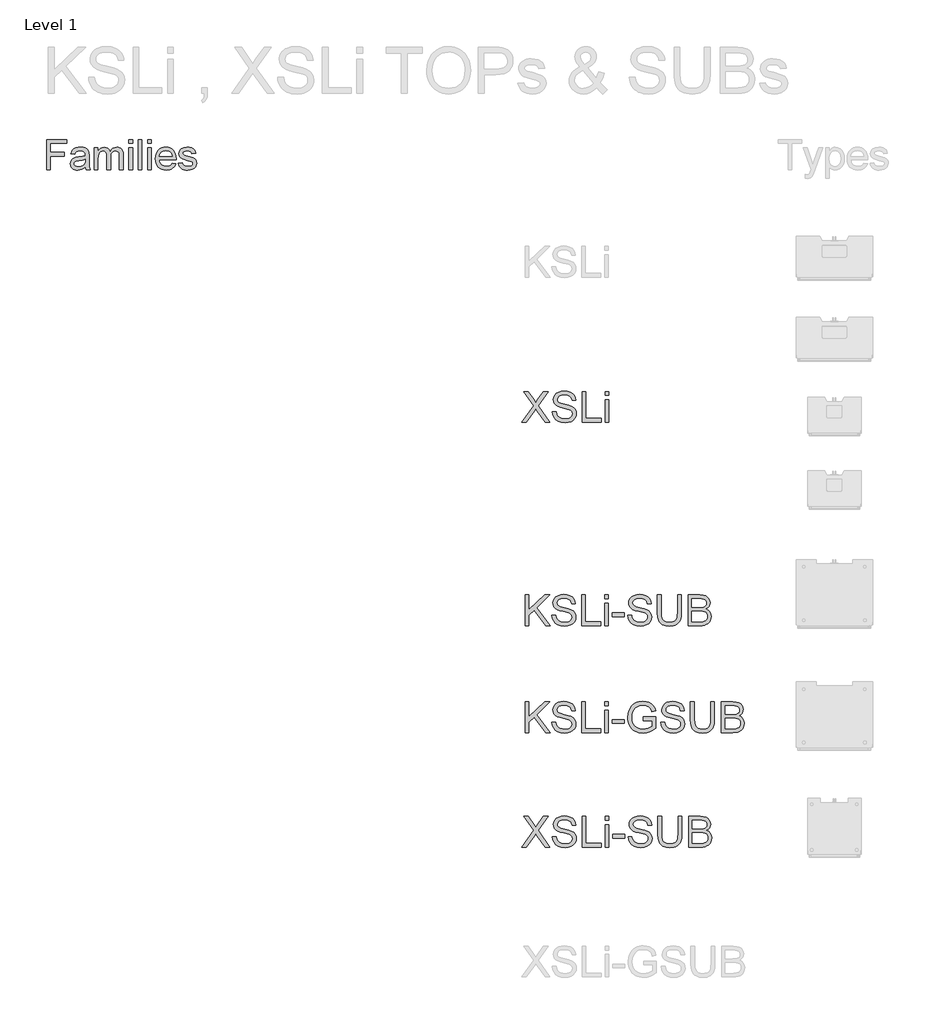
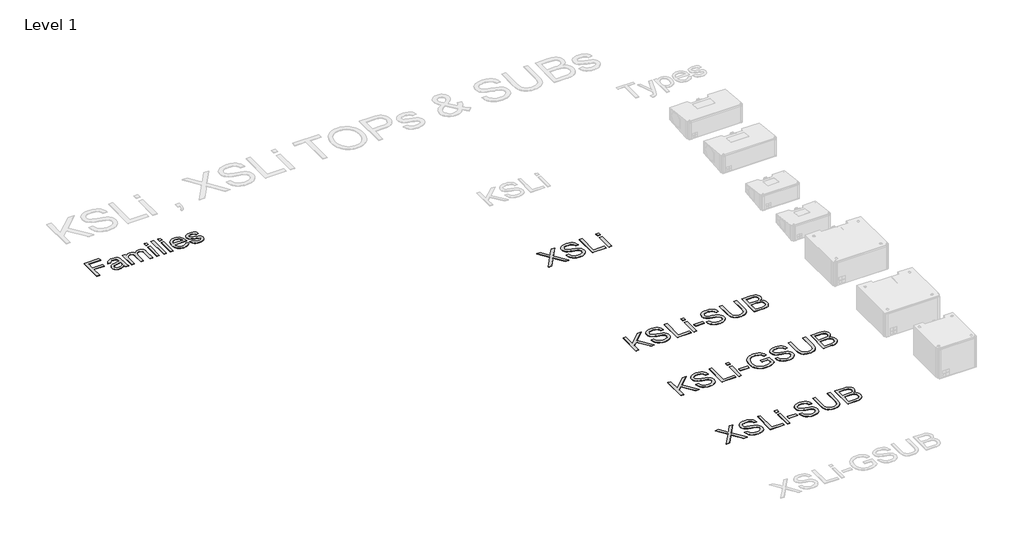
# One storey, part 50 of 52: 5 proxies.
"""IFC4 building model written with IfcOpenShell, lengths in millimetres."""

from ifc_helpers import new_model, si_unit, origin, origin_with_axes, place, context, project, spatial, polyline, outline, extrude, element, save

model = new_model("IFC4")

# Units and contexts
model_context = context("Model", 3, world=origin())
ifc_project = project(units=[si_unit("LENGTHUNIT", "METRE", prefix="MILLI")], contexts=[model_context])

# Site, building, storey
site = spatial("IfcSite", under=ifc_project)
building = spatial("IfcBuilding", under=site)
storey = spatial("IfcBuildingStorey", under=building, Name="Level 1", Elevation=0.0)

# Proxies
placement = place(None, origin())
element("IfcBuildingElementProxy", 1, Name="400mm Arial", ObjectType="400mm Arial", at=placement, inside=storey, context=model_context, shape_type="SweptSolid", body=[
    extrude(outline(polyline([(5943.279109, 17351.3054836), (5943.279109, 17743.0630593), (6206.4912302, 17743.0630593), (6206.4912302, 17694.0933624), (5992.2488059, 17694.0933624), (5992.2488059, 17577.7903321), (6175.8851696, 17577.7903321), (6175.8851696, 17528.8206351), (5992.2488059, 17528.8206351), (5992.2488059, 17351.3054836), (5943.279109, 17351.3054836)])), origin_with_axes(), (0.0, 0.0, 1.0), 5.0),
    extrude(outline(polyline([(6451.339715, 17388.0327563), (6427.9428164, 17367.97144), (6403.8524991, 17354.8443093), (6378.5188107, 17347.5992809), (6351.3917984, 17345.1842715), (6329.5879691, 17346.6368638), (6310.4681478, 17350.9946408), (6294.0323346, 17358.2576024), (6280.2805294, 17368.4257487), (6269.4219534, 17380.8534831), (6261.6658277, 17394.895209), (6257.0121523, 17410.5509263), (6255.4609271, 17427.8206351), (6257.8042037, 17448.1210612), (6264.8340332, 17466.5564305), (6275.6776648, 17482.3376805), (6289.4623476, 17494.6757487), (6323.7506999, 17510.7439305), (6366.120965, 17518.1085139), (6416.1905673, 17525.855673), (6451.0527832, 17534.9418472), (6451.339715, 17545.8452563), (6447.9682662, 17567.6998965), (6437.8539196, 17581.9986654), (6415.2341279, 17592.6151427), (6383.7194499, 17596.1539684), (6354.5480484, 17593.7987364), (6334.1758893, 17586.7330404), (6320.2836071, 17573.6656872), (6310.5518362, 17553.3054836), (6261.5821393, 17559.4266957), (6270.0824944, 17586.2069987), (6282.7672718, 17607.2486654), (6300.8200654, 17623.3407582), (6325.4244688, 17635.2723396), (6355.5164432, 17642.660834), (6390.0319499, 17645.1236654), (6423.1367084, 17642.9477658), (6449.3790143, 17636.4200669), (6469.1653542, 17626.6046076), (6482.902215, 17614.5654268), (6492.0123003, 17599.6808387), (6497.9183135, 17581.3291578), (6500.309412, 17538.480673), (6500.309412, 17477.5554836), (6502.7961544, 17392.4801995), (6512.5518362, 17351.3054836), (6463.5821393, 17351.3054836), (6455.7393362, 17368.3301048), (6451.339715, 17388.0327563)]), holes=[polyline([(6451.339715, 17485.9721502), (6418.4381999, 17477.8185044), (6372.3378211, 17470.9560518), (6330.2066658, 17463.0176048), (6319.2434792, 17457.5898112), (6311.1256999, 17450.105673), (6306.1043931, 17441.1390536), (6304.4306241, 17431.2638169), (6308.0770493, 17416.7020271), (6319.0163249, 17404.7704457), (6337.009341, 17396.8080877), (6361.8169878, 17394.1539684), (6388.1190711, 17397.0830641), (6411.3605484, 17405.870351), (6430.2024044, 17418.8181493), (6443.3056241, 17434.228779), (6449.1159934, 17450.105673), (6451.0527832, 17472.103779), (6451.339715, 17485.9721502)])]), origin_with_axes(), (0.0, 0.0, 1.0), 5.0),
    extrude(outline(polyline([(6567.6427453, 17351.3054836), (6567.6427453, 17639.0024533), (6616.6124423, 17639.0024533), (6616.6124423, 17591.6587033), (6631.341609, 17613.405744), (6650.279109, 17630.4423207), (6672.7793457, 17641.4533292), (6698.1967226, 17645.1236654), (6725.4313343, 17641.3815963), (6747.2620635, 17630.1553889), (6763.5693552, 17612.1862838), (6774.2336544, 17588.2155215), (6792.0832046, 17613.1128344), (6812.4434082, 17630.8966294), (6835.3142652, 17641.5669064), (6860.6957756, 17645.1236654), (6880.2997943, 17643.6441732), (6897.5067368, 17639.2056966), (6912.316603, 17631.8082357), (6924.7293931, 17621.4517904), (6934.5418635, 17608.0168058), (6941.5507709, 17591.3837269), (6945.7561154, 17571.5525539), (6947.1578968, 17548.5232866), (6947.1578968, 17351.3054836), (6898.1881999, 17351.3054836), (6898.1881999, 17527.4816199), (6893.6451128, 17568.369404), (6887.2608798, 17579.6434334), (6877.1943552, 17588.5024533), (6864.2465569, 17594.2410896), (6849.2185029, 17596.1539684), (6822.6892652, 17591.2522165), (6801.0617794, 17576.5469608), (6792.6720126, 17565.2669537), (6786.679322, 17551.03394), (6781.8851696, 17513.7088927), (6781.8851696, 17351.3054836), (6732.9154726, 17351.3054836), (6732.9154726, 17532.9333245), (6730.0820209, 17560.6222449), (6721.5816658, 17580.3727184), (6706.6253448, 17592.2086559), (6684.4239953, 17596.1539684), (6665.5582283, 17593.5237601), (6648.1749423, 17585.6331351), (6633.8283514, 17572.6733813), (6624.0726696, 17554.8357866), (6618.4774991, 17530.0879173), (6616.6124423, 17496.3973396), (6616.6124423, 17351.3054836), (6567.6427453, 17351.3054836)])), origin_with_axes(), (0.0, 0.0, 1.0), 5.0),
    extrude(outline(polyline([(7020.6124423, 17351.3054836), (7020.6124423, 17639.0024533), (7069.5821393, 17639.0024533), (7069.5821393, 17351.3054836), (7020.6124423, 17351.3054836)])), origin_with_axes(), (0.0, 0.0, 1.0), 5.0),
    extrude(outline(polyline([(7020.6124423, 17694.0933624), (7020.6124423, 17743.0630593), (7069.5821393, 17743.0630593), (7069.5821393, 17694.0933624), (7020.6124423, 17694.0933624)])), origin_with_axes(), (0.0, 0.0, 1.0), 5.0),
    extrude(outline(polyline([(7143.0366847, 17351.3054836), (7143.0366847, 17743.0630593), (7192.0063817, 17743.0630593), (7192.0063817, 17351.3054836), (7143.0366847, 17351.3054836)])), origin_with_axes(), (0.0, 0.0, 1.0), 5.0),
    extrude(outline(polyline([(7265.4609271, 17351.3054836), (7265.4609271, 17639.0024533), (7314.4306241, 17639.0024533), (7314.4306241, 17351.3054836), (7265.4609271, 17351.3054836)])), origin_with_axes(), (0.0, 0.0, 1.0), 5.0),
    extrude(outline(polyline([(7265.4609271, 17694.0933624), (7265.4609271, 17743.0630593), (7314.4306241, 17743.0630593), (7314.4306241, 17694.0933624), (7265.4609271, 17694.0933624)])), origin_with_axes(), (0.0, 0.0, 1.0), 5.0),
    extrude(outline(polyline([(7589.3113059, 17437.0024533), (7637.3245635, 17430.8812411), (7629.9629691, 17411.6508316), (7620.024966, 17394.7039211), (7607.5105543, 17380.0405096), (7592.419734, 17367.6605972), (7574.9079264, 17357.8272047), (7555.1305531, 17350.8033529), (7508.779109, 17345.1842715), (7478.394225, 17347.6082475), (7451.3210124, 17354.8801758), (7427.5594712, 17367.0000563), (7407.1096014, 17383.9678889), (7390.6648216, 17405.3114317), (7378.9185503, 17430.5584429), (7371.8707875, 17459.7089223), (7369.5215332, 17492.7628699), (7371.8946985, 17526.937645), (7379.0141942, 17557.0595082), (7390.8800204, 17583.1284594), (7407.4921771, 17605.1444987), (7427.8882472, 17622.6353841), (7451.1058135, 17635.1288737), (7477.144876, 17642.6249675), (7506.0054347, 17645.1236654), (7533.9364539, 17642.6309452), (7559.1954205, 17635.1527847), (7581.7823346, 17622.6891839), (7601.6971961, 17605.2401427), (7617.9536769, 17583.2719253), (7629.5654489, 17557.2507961), (7636.5325121, 17527.1767549), (7638.8548665, 17493.0498018), (7638.5679347, 17479.8509381), (7418.4912302, 17479.8509381), (7421.3276708, 17460.3096858), (7426.9676743, 17443.1953983), (7435.4112408, 17428.5080759), (7446.6583703, 17416.2477184), (7475.0765758, 17399.6774059), (7509.7355484, 17394.1539684), (7535.7985218, 17396.7124438), (7557.7488059, 17404.3878699), (7575.5864006, 17417.6584665), (7589.3113059, 17437.0024533)]), holes=[polyline([(7418.4912302, 17528.8206351), (7589.8851696, 17528.8206351), (7583.2618268, 17554.6923207), (7570.278162, 17573.199423), (7556.923877, 17583.2420366), (7541.7284461, 17590.4153321), (7505.8141468, 17596.1539684), (7472.8050323, 17591.5750148), (7445.5106431, 17577.838154), (7426.5372766, 17556.4258671), (7418.4912302, 17528.8206351)])]), origin_with_axes(), (0.0, 0.0, 1.0), 5.0),
    extrude(outline(polyline([(7669.4609271, 17437.0024533), (7718.4306241, 17443.1236654), (7726.1538722, 17422.1776427), (7741.0982378, 17406.7789684), (7763.3593646, 17397.3102184), (7793.0328968, 17394.1539684), (7822.3477643, 17397.0471976), (7842.9590332, 17405.7268851), (7855.1536355, 17418.3040631), (7859.2185029, 17432.8897639), (7855.1297245, 17445.371298), (7842.8633893, 17454.8878699), (7792.4590332, 17468.8518851), (7718.7175559, 17492.8106919), (7700.0550323, 17504.8498728), (7686.5333703, 17520.7865442), (7678.319947, 17539.6044893), (7675.5821393, 17560.2874911), (7677.7819499, 17579.2608576), (7684.3813817, 17596.775654), (7694.7826601, 17612.1384618), (7708.3880105, 17624.6558624), (7739.5201128, 17639.1459192), (7781.6512681, 17645.1236654), (7813.5246109, 17642.7206114), (7841.2374423, 17635.5114495), (7863.5224802, 17624.2015536), (7879.1124423, 17609.496298), (7889.4419878, 17590.3077326), (7895.9457756, 17565.5479078), (7846.9760787, 17559.4266957), (7840.7950891, 17574.8373254), (7828.5646203, 17586.4461086), (7810.1651175, 17593.7270035), (7785.4770256, 17596.1539684), (7757.3577075, 17593.8346029), (7738.6114953, 17586.8765063), (7728.066751, 17576.8338927), (7724.5518362, 17565.260976), (7730.3861165, 17551.010029), (7748.654109, 17540.2022639), (7790.8330862, 17529.7770745), (7862.7095067, 17506.7268851), (7881.6948287, 17495.7039211), (7896.0892415, 17480.6160896), (7905.1634603, 17461.4155688), (7908.1881999, 17438.0545366), (7904.6374186, 17413.9044419), (7893.9850749, 17391.1890063), (7876.6376554, 17371.6895982), (7853.0016468, 17357.1875858), (7824.4519309, 17348.1851), (7792.3633893, 17345.1842715), (7766.0075062, 17346.630886), (7742.9872056, 17350.9707298), (7723.3024873, 17358.2038027), (7706.9533514, 17368.3301048), (7693.5990664, 17381.3018141), (7682.8989006, 17397.0711086), (7674.8528542, 17415.6379883), (7669.4609271, 17437.0024533)])), origin_with_axes(), (0.0, 0.0, 1.0), 5.0),
])
element("IfcBuildingElementProxy", 2, Name="400mm Arial", ObjectType="400mm Arial", at=placement, inside=storey, context=model_context, shape_type="SweptSolid", body=[
    extrude(outline(polyline([(12164.5195082, 14043.8997901), (12319.4223537, 14262.8631536), (12189.6335858, 14445.7250307), (12249.8681311, 14445.7250307), (12322.9540208, 14342.8161739), (12347.577589, 14302.692511), (12376.4195374, 14343.502887), (12448.7206122, 14445.7250307), (12509.8380744, 14445.7250307), (12380.0493065, 14262.2745424), (12534.9521519, 14043.8997901), (12474.7176066, 14043.8997901), (12371.5144442, 14189.4829583), (12350.0301357, 14219.6983329), (12326.3875861, 14186.5399024), (12225.6369704, 14043.8997901), (12164.5195082, 14043.8997901)])), origin_with_axes(), (0.0, 0.0, 1.0), 5.0),
    extrude(outline(polyline([(12566.3447488, 14182.0272165), (12616.5729039, 14182.0272165), (12622.3363885, 14154.154024), (12632.7597117, 14131.7500105), (12649.0200959, 14113.9690474), (12672.2947634, 14099.9650062), (12700.7443044, 14090.8783209), (12732.5293088, 14087.8494258), (12760.5128659, 14090.1425569), (12785.0138068, 14097.0219502), (12804.8671718, 14107.9112573), (12818.9080012, 14122.2341296), (12827.2589225, 14138.6784548), (12830.042563, 14155.9321204), (12827.9578983, 14172.7443275), (12821.7039044, 14187.2756663), (12808.9997128, 14199.6732896), (12787.5644553, 14210.08435), (12714.4295146, 14229.2632647), (12666.4209142, 14241.9551936), (12635.7027676, 14254.0339857), (12610.6990547, 14270.932032), (12592.9794053, 14291.4107964), (12582.421192, 14315.0288205), (12578.9017876, 14341.3446459), (12583.2550579, 14370.7629428), (12596.3148687, 14398.1946769), (12617.7378635, 14421.444819), (12647.1806859, 14438.3183399), (12682.5218829, 14448.5822475), (12721.6400017, 14452.0035501), (12764.0200076, 14448.422832), (12801.1025127, 14437.6806777), (12831.5631419, 14419.9978165), (12854.07752, 14395.5949775), (12868.3268159, 14365.9927396), (12873.9921987, 14332.7116818), (12823.7640436, 14332.7116818), (12814.5424682, 14362.6818016), (12806.1792842, 14374.5398646), (12795.3145026, 14384.313263), (12765.2708063, 14397.409862), (12723.602039, 14401.775395), (12680.9522531, 14397.4589129), (12664.6489493, 14392.0633103), (12651.6933717, 14384.5094667), (12634.7707999, 14365.4531793), (12629.1299427, 14342.8161739), (12633.1275937, 14323.5146319), (12645.1205467, 14307.9900117), (12673.4719858, 14294.1085977), (12727.1337062, 14279.9328782), (12782.5122092, 14266.4683972), (12816.0139962, 14254.7206988), (12844.6474782, 14236.4982773), (12864.6234705, 14214.0084247), (12876.3589062, 14187.4963955), (12880.270718, 14157.2074446), (12875.770295, 14126.2440433), (12862.2690257, 14097.1200521), (12840.3187334, 14072.0550255), (12810.4712408, 14053.2685182), (12774.5782208, 14041.5330826), (12734.4913461, 14037.6212707), (12685.2809979, 14041.8396509), (12644.7771902, 14054.4947916), (12612.5139392, 14075.6357435), (12588.0252611, 14105.3115578), (12572.3044371, 14141.4620952), (12566.3447488, 14182.0272165)])), origin_with_axes(), (0.0, 0.0, 1.0), 5.0),
    extrude(outline(polyline([(12955.6129507, 14043.8997901), (12955.6129507, 14445.7250307), (13005.8411057, 14445.7250307), (13005.8411057, 14094.1279452), (13206.753726, 14094.1279452), (13206.753726, 14043.8997901), (12955.6129507, 14043.8997901)])), origin_with_axes(), (0.0, 0.0, 1.0), 5.0),
    extrude(outline(polyline([(13256.9818811, 14043.8997901), (13256.9818811, 14338.9902012), (13307.2100362, 14338.9902012), (13307.2100362, 14043.8997901), (13256.9818811, 14043.8997901)])), origin_with_axes(), (0.0, 0.0, 1.0), 5.0),
    extrude(outline(polyline([(13256.9818811, 14395.4968756), (13256.9818811, 14445.7250307), (13307.2100362, 14445.7250307), (13307.2100362, 14395.4968756), (13256.9818811, 14395.4968756)])), origin_with_axes(), (0.0, 0.0, 1.0), 5.0),
])
element("IfcBuildingElementProxy", 3, Name="400mm Arial", ObjectType="400mm Arial", at=placement, inside=storey, context=model_context, shape_type="SweptSolid", body=[
    extrude(outline(polyline([(12208.4691439, 11381.029306), (12208.4691439, 11782.8545466), (12258.697299, 11782.8545466), (12258.697299, 11586.1603065), (12464.7112163, 11782.8545466), (12534.9521519, 11782.8545466), (12361.9985632, 11617.6510053), (12541.2306713, 11381.029306), (12479.8189036, 11381.029306), (12326.3875861, 11583.7077598), (12258.697299, 11519.1567324), (12258.697299, 11381.029306), (12208.4691439, 11381.029306)])), origin_with_axes(), (0.0, 0.0, 1.0), 5.0),
    extrude(outline(polyline([(12560.0662294, 11519.1567324), (12610.2943845, 11519.1567324), (12616.0578691, 11491.2835399), (12626.4811923, 11468.8795264), (12642.7415765, 11451.0985633), (12666.016244, 11437.094522), (12694.465785, 11428.0078368), (12726.2507894, 11424.9789417), (12754.2343465, 11427.2720728), (12778.7352874, 11434.1514661), (12798.5886524, 11445.0407731), (12812.6294819, 11459.3636455), (12820.9804032, 11475.8079707), (12823.7640436, 11493.0616362), (12821.6793789, 11509.8738434), (12815.425385, 11524.4051822), (12802.7211935, 11536.8028055), (12781.2859359, 11547.2138659), (12708.1509952, 11566.3927806), (12660.1423949, 11579.0847094), (12629.4242483, 11591.1635016), (12604.4205353, 11608.0615479), (12586.7008859, 11628.5403123), (12576.1426726, 11652.1583364), (12572.6232682, 11678.4741618), (12576.9765385, 11707.8924587), (12590.0363493, 11735.3241928), (12611.4593442, 11758.5743349), (12640.9021665, 11775.4478557), (12676.2433635, 11785.7117634), (12715.3614823, 11789.133066), (12757.7414882, 11785.5523479), (12794.8239933, 11774.8101936), (12825.2846225, 11757.1273324), (12847.7990006, 11732.7244934), (12862.0482965, 11703.1222555), (12867.7136793, 11669.8411976), (12817.4855242, 11669.8411976), (12808.2639489, 11699.8113175), (12799.9007648, 11711.6693805), (12789.0359832, 11721.4427788), (12758.992287, 11734.5393779), (12717.3235196, 11738.9049109), (12674.6737337, 11734.5884288), (12658.3704299, 11729.1928262), (12645.4148523, 11721.6389826), (12628.4922805, 11702.5826952), (12622.8514233, 11679.9456898), (12626.8490743, 11660.6441478), (12638.8420273, 11645.1195276), (12667.1934664, 11631.2381136), (12720.8551868, 11617.0623941), (12776.2336898, 11603.5979131), (12809.7354768, 11591.8502147), (12838.3689588, 11573.6277932), (12858.3449511, 11551.1379405), (12870.0803868, 11524.6259114), (12873.9921987, 11494.3369605), (12869.4917756, 11463.3735592), (12855.9905064, 11434.2495679), (12834.040214, 11409.1845413), (12804.1927214, 11390.3980341), (12768.2997014, 11378.6625985), (12728.2128267, 11374.7507866), (12679.0024785, 11378.9691668), (12638.4986708, 11391.6243074), (12606.2354198, 11412.7652594), (12581.7467417, 11442.4410737), (12566.0259178, 11478.5916111), (12560.0662294, 11519.1567324)])), origin_with_axes(), (0.0, 0.0, 1.0), 5.0),
    extrude(outline(polyline([(12949.3344313, 11381.029306), (12949.3344313, 11782.8545466), (12999.5625863, 11782.8545466), (12999.5625863, 11431.257461), (13200.4752066, 11431.257461), (13200.4752066, 11381.029306), (12949.3344313, 11381.029306)])), origin_with_axes(), (0.0, 0.0, 1.0), 5.0),
    extrude(outline(polyline([(13250.7033617, 11732.6263915), (13250.7033617, 11782.8545466), (13300.9315168, 11782.8545466), (13300.9315168, 11732.6263915), (13250.7033617, 11732.6263915)])), origin_with_axes(), (0.0, 0.0, 1.0), 5.0),
    extrude(outline(polyline([(13250.7033617, 11381.029306), (13250.7033617, 11676.119717), (13300.9315168, 11676.119717), (13300.9315168, 11381.029306), (13250.7033617, 11381.029306)])), origin_with_axes(), (0.0, 0.0, 1.0), 5.0),
    extrude(outline(polyline([(13351.1596719, 11500.3211743), (13351.1596719, 11550.5493293), (13508.1226565, 11550.5493293), (13508.1226565, 11500.3211743), (13351.1596719, 11500.3211743)])), origin_with_axes(), (0.0, 0.0, 1.0), 5.0),
    extrude(outline(polyline([(13552.0722922, 11519.1567324), (13602.3004472, 11519.1567324), (13608.0639318, 11491.2835399), (13618.487255, 11468.8795264), (13634.7476392, 11451.0985633), (13658.0223068, 11437.094522), (13686.4718477, 11428.0078368), (13718.2568521, 11424.9789417), (13746.2404092, 11427.2720728), (13770.7413501, 11434.1514661), (13790.5947151, 11445.0407731), (13804.6355446, 11459.3636455), (13812.9864659, 11475.8079707), (13815.7701063, 11493.0616362), (13813.6854417, 11509.8738434), (13807.4314478, 11524.4051822), (13794.7272562, 11536.8028055), (13773.2919986, 11547.2138659), (13700.157058, 11566.3927806), (13652.1484576, 11579.0847094), (13621.430311, 11591.1635016), (13596.4265981, 11608.0615479), (13578.7069486, 11628.5403123), (13568.1487354, 11652.1583364), (13564.6293309, 11678.4741618), (13568.9826012, 11707.8924587), (13582.042412, 11735.3241928), (13603.4654069, 11758.5743349), (13632.9082292, 11775.4478557), (13668.2494262, 11785.7117634), (13707.3675451, 11789.133066), (13749.7475509, 11785.5523479), (13786.830056, 11774.8101936), (13817.2906852, 11757.1273324), (13839.8050633, 11732.7244934), (13854.0543593, 11703.1222555), (13859.719742, 11669.8411976), (13809.4915869, 11669.8411976), (13800.2700116, 11699.8113175), (13791.9068276, 11711.6693805), (13781.042046, 11721.4427788), (13750.9983497, 11734.5393779), (13709.3295824, 11738.9049109), (13666.6797964, 11734.5884288), (13650.3764926, 11729.1928262), (13637.420915, 11721.6389826), (13620.4983433, 11702.5826952), (13614.857486, 11679.9456898), (13618.855137, 11660.6441478), (13630.8480901, 11645.1195276), (13659.1995292, 11631.2381136), (13712.8612495, 11617.0623941), (13768.2397525, 11603.5979131), (13801.7415396, 11591.8502147), (13830.3750215, 11573.6277932), (13850.3510139, 11551.1379405), (13862.0864495, 11524.6259114), (13865.9982614, 11494.3369605), (13861.4978383, 11463.3735592), (13847.9965691, 11434.2495679), (13826.0462767, 11409.1845413), (13796.1987842, 11390.3980341), (13760.3057642, 11378.6625985), (13720.2188894, 11374.7507866), (13671.0085412, 11378.9691668), (13630.5047335, 11391.6243074), (13598.2414826, 11412.7652594), (13573.7528044, 11442.4410737), (13558.0319805, 11478.5916111), (13552.0722922, 11519.1567324)])), origin_with_axes(), (0.0, 0.0, 1.0), 5.0),
    extrude(outline(polyline([(14205.0383081, 11782.8545466), (14255.2664632, 11782.8545466), (14255.2664632, 11551.0398387), (14251.8574234, 11496.7527189), (14241.6303039, 11454.9490615), (14233.4449295, 11437.9958329), (14222.5249656, 11422.6980733), (14192.4812694, 11397.068961), (14173.3391429, 11387.3047597), (14151.4256387, 11380.3303302), (14099.2844973, 11374.7507866), (14048.28379, 11379.6068289), (14007.5102022, 11394.1749559), (13990.9555124, 11404.9753582), (13976.9514711, 11417.9523956), (13965.4980783, 11433.1060681), (13956.5953341, 11450.4363757), (13945.154204, 11494.0058667), (13941.340494, 11551.0398387), (13941.340494, 11782.8545466), (13991.5686491, 11782.8545466), (13991.5686491, 11552.8056722), (13994.0457212, 11507.6665514), (14001.4769375, 11476.2371663), (14014.9414185, 11454.4708149), (14035.5182848, 11438.3207954), (14062.3491449, 11428.3144051), (14094.5756077, 11424.9789417), (14122.2587279, 11426.6282793), (14145.6621541, 11431.5762921), (14164.7858865, 11439.8229802), (14179.629925, 11451.3683434), (14190.7460926, 11467.6042022), (14198.6862124, 11489.9223765), (14203.4502842, 11518.3228666), (14205.0383081, 11552.8056722), (14205.0383081, 11782.8545466)])), origin_with_axes(), (0.0, 0.0, 1.0), 5.0),
    extrude(outline(polyline([(14343.1657346, 11381.029306), (14343.1657346, 11782.8545466), (14496.4989502, 11782.8545466), (14538.6704896, 11779.8992279), (14571.5959281, 11771.0332718), (14596.832633, 11756.0359491), (14615.9379713, 11734.6865307), (14627.9677125, 11709.5724531), (14631.9776263, 11683.2811532), (14628.6053747, 11659.0867807), (14618.4886198, 11636.3394106), (14601.5537853, 11616.4369947), (14577.7272947, 11600.7774844), (14606.1890984, 11585.9150518), (14627.2196858, 11563.3025718), (14640.2059202, 11534.436098), (14644.534665, 11500.8116836), (14641.5793463, 11472.7913383), (14632.7133903, 11446.8066067), (14619.4819012, 11424.7091615), (14603.4299834, 11408.3506755), (14583.7728222, 11396.5048752), (14559.7256024, 11387.9454875), (14530.5035093, 11382.7583513), (14495.3217278, 11381.029306), (14343.1657346, 11381.029306)]), holes=[polyline([(14393.3938897, 11431.257461), (14496.4008483, 11431.257461), (14533.6795572, 11433.2194984), (14565.2193069, 11444.1578563), (14576.795327, 11453.5878982), (14586.1150042, 11466.4760307), (14592.2586335, 11482.2459056), (14594.30651, 11500.3211743), (14591.9030143, 11521.3149735), (14584.6925272, 11539.3657167), (14572.0987002, 11553.4801226), (14553.5451849, 11562.6649097), (14527.2661477, 11567.7048931), (14491.495755, 11569.3848875), (14393.3938897, 11569.3848875), (14393.3938897, 11431.257461)]), polyline([(14393.3938897, 11619.6130426), (14485.1191338, 11619.6130426), (14538.6827523, 11623.9295247), (14557.4324713, 11631.3730037), (14570.9092151, 11642.5198281), (14579.0394072, 11657.1983197), (14581.7494712, 11675.2368002), (14579.2233482, 11692.7479832), (14571.6449791, 11708.0028233), (14559.3577204, 11719.9099372), (14542.7049288, 11727.3779417), (14517.1493928, 11731.314279), (14478.1539014, 11732.6263915), (14393.3938897, 11732.6263915), (14393.3938897, 11619.6130426)])]), origin_with_axes(), (0.0, 0.0, 1.0), 5.0),
])
element("IfcBuildingElementProxy", 4, Name="400mm Arial", ObjectType="400mm Arial", at=placement, inside=storey, context=model_context, shape_type="SweptSolid", body=[
    extrude(outline(polyline([(12164.5195082, 8481.029306), (12319.4223537, 8699.9926695), (12189.6335858, 8882.8545466), (12249.8681311, 8882.8545466), (12322.9540208, 8779.9456898), (12347.577589, 8739.8220268), (12376.4195374, 8780.6324028), (12448.7206122, 8882.8545466), (12509.8380744, 8882.8545466), (12380.0493065, 8699.4040583), (12534.9521519, 8481.029306), (12474.7176066, 8481.029306), (12371.5144442, 8626.6124742), (12350.0301357, 8656.8278487), (12326.3875861, 8623.6694182), (12225.6369704, 8481.029306), (12164.5195082, 8481.029306)])), origin_with_axes(), (0.0, 0.0, 1.0), 5.0),
    extrude(outline(polyline([(12566.3447488, 8619.1567324), (12616.5729039, 8619.1567324), (12622.3363885, 8591.2835399), (12632.7597117, 8568.8795264), (12649.0200959, 8551.0985633), (12672.2947634, 8537.094522), (12700.7443044, 8528.0078368), (12732.5293088, 8524.9789417), (12760.5128659, 8527.2720728), (12785.0138068, 8534.1514661), (12804.8671718, 8545.0407731), (12818.9080012, 8559.3636455), (12827.2589225, 8575.8079707), (12830.042563, 8593.0616362), (12827.9578983, 8609.8738434), (12821.7039044, 8624.4051822), (12808.9997128, 8636.8028055), (12787.5644553, 8647.2138659), (12714.4295146, 8666.3927806), (12666.4209142, 8679.0847094), (12635.7027676, 8691.1635016), (12610.6990547, 8708.0615479), (12592.9794053, 8728.5403123), (12582.421192, 8752.1583364), (12578.9017876, 8778.4741618), (12583.2550579, 8807.8924587), (12596.3148687, 8835.3241928), (12617.7378635, 8858.5743349), (12647.1806859, 8875.4478557), (12682.5218829, 8885.7117634), (12721.6400017, 8889.133066), (12764.0200076, 8885.5523479), (12801.1025127, 8874.8101936), (12831.5631419, 8857.1273324), (12854.07752, 8832.7244934), (12868.3268159, 8803.1222555), (12873.9921987, 8769.8411976), (12823.7640436, 8769.8411976), (12814.5424682, 8799.8113175), (12806.1792842, 8811.6693805), (12795.3145026, 8821.4427788), (12765.2708063, 8834.5393779), (12723.602039, 8838.9049109), (12680.9522531, 8834.5884288), (12664.6489493, 8829.1928262), (12651.6933717, 8821.6389826), (12634.7707999, 8802.5826952), (12629.1299427, 8779.9456898), (12633.1275937, 8760.6441478), (12645.1205467, 8745.1195276), (12673.4719858, 8731.2381136), (12727.1337062, 8717.0623941), (12782.5122092, 8703.5979131), (12816.0139962, 8691.8502147), (12844.6474782, 8673.6277932), (12864.6234705, 8651.1379405), (12876.3589062, 8624.6259114), (12880.270718, 8594.3369605), (12875.770295, 8563.3735592), (12862.2690257, 8534.2495679), (12840.3187334, 8509.1845413), (12810.4712408, 8490.3980341), (12774.5782208, 8478.6625985), (12734.4913461, 8474.7507866), (12685.2809979, 8478.9691668), (12644.7771902, 8491.6243074), (12612.5139392, 8512.7652594), (12588.0252611, 8542.4410737), (12572.3044371, 8578.5916111), (12566.3447488, 8619.1567324)])), origin_with_axes(), (0.0, 0.0, 1.0), 5.0),
    extrude(outline(polyline([(12955.6129507, 8481.029306), (12955.6129507, 8882.8545466), (13005.8411057, 8882.8545466), (13005.8411057, 8531.257461), (13206.753726, 8531.257461), (13206.753726, 8481.029306), (12955.6129507, 8481.029306)])), origin_with_axes(), (0.0, 0.0, 1.0), 5.0),
    extrude(outline(polyline([(13256.9818811, 8481.029306), (13256.9818811, 8776.119717), (13307.2100362, 8776.119717), (13307.2100362, 8481.029306), (13256.9818811, 8481.029306)])), origin_with_axes(), (0.0, 0.0, 1.0), 5.0),
    extrude(outline(polyline([(13256.9818811, 8832.6263915), (13256.9818811, 8882.8545466), (13307.2100362, 8882.8545466), (13307.2100362, 8832.6263915), (13256.9818811, 8832.6263915)])), origin_with_axes(), (0.0, 0.0, 1.0), 5.0),
    extrude(outline(polyline([(13357.4381913, 8600.3211743), (13357.4381913, 8650.5493293), (13514.4011759, 8650.5493293), (13514.4011759, 8600.3211743), (13357.4381913, 8600.3211743)])), origin_with_axes(), (0.0, 0.0, 1.0), 5.0),
    extrude(outline(polyline([(13558.3508115, 8619.1567324), (13608.5789666, 8619.1567324), (13614.3424512, 8591.2835399), (13624.7657744, 8568.8795264), (13641.0261586, 8551.0985633), (13664.3008262, 8537.094522), (13692.7503671, 8528.0078368), (13724.5353715, 8524.9789417), (13752.5189286, 8527.2720728), (13777.0198695, 8534.1514661), (13796.8732345, 8545.0407731), (13810.914064, 8559.3636455), (13819.2649853, 8575.8079707), (13822.0486257, 8593.0616362), (13819.9639611, 8609.8738434), (13813.7099671, 8624.4051822), (13801.0057756, 8636.8028055), (13779.570518, 8647.2138659), (13706.4355773, 8666.3927806), (13658.426977, 8679.0847094), (13627.7088304, 8691.1635016), (13602.7051174, 8708.0615479), (13584.985468, 8728.5403123), (13574.4272547, 8752.1583364), (13570.9078503, 8778.4741618), (13575.2611206, 8807.8924587), (13588.3209314, 8835.3241928), (13609.7439263, 8858.5743349), (13639.1867486, 8875.4478557), (13674.5279456, 8885.7117634), (13713.6460644, 8889.133066), (13756.0260703, 8885.5523479), (13793.1085754, 8874.8101936), (13823.5692046, 8857.1273324), (13846.0835827, 8832.7244934), (13860.3328787, 8803.1222555), (13865.9982614, 8769.8411976), (13815.7701063, 8769.8411976), (13806.548531, 8799.8113175), (13798.1853469, 8811.6693805), (13787.3205653, 8821.4427788), (13757.2768691, 8834.5393779), (13715.6081018, 8838.9049109), (13672.9583158, 8834.5884288), (13656.655012, 8829.1928262), (13643.6994344, 8821.6389826), (13626.7768627, 8802.5826952), (13621.1360054, 8779.9456898), (13625.1336564, 8760.6441478), (13637.1266095, 8745.1195276), (13665.4780485, 8731.2381136), (13719.1397689, 8717.0623941), (13774.5182719, 8703.5979131), (13808.0200589, 8691.8502147), (13836.6535409, 8673.6277932), (13856.6295332, 8651.1379405), (13868.3649689, 8624.6259114), (13872.2767808, 8594.3369605), (13867.7763577, 8563.3735592), (13854.2750885, 8534.2495679), (13832.3247961, 8509.1845413), (13802.4773035, 8490.3980341), (13766.5842836, 8478.6625985), (13726.4974088, 8474.7507866), (13677.2870606, 8478.9691668), (13636.7832529, 8491.6243074), (13604.5200019, 8512.7652594), (13580.0313238, 8542.4410737), (13564.3104999, 8578.5916111), (13558.3508115, 8619.1567324)])), origin_with_axes(), (0.0, 0.0, 1.0), 5.0),
    extrude(outline(polyline([(14211.3168275, 8882.8545466), (14261.5449826, 8882.8545466), (14261.5449826, 8651.0398387), (14258.1359428, 8596.7527189), (14247.9088233, 8554.9490615), (14239.7234489, 8537.9958329), (14228.803485, 8522.6980733), (14198.7597888, 8497.068961), (14179.6176623, 8487.3047597), (14157.7041581, 8480.3303302), (14105.5630166, 8474.7507866), (14054.5623094, 8479.6068289), (14013.7887216, 8494.1749559), (13997.2340318, 8504.9753582), (13983.2299905, 8517.9523956), (13971.7765977, 8533.1060681), (13962.8738534, 8550.4363757), (13951.4327234, 8594.0058667), (13947.6190134, 8651.0398387), (13947.6190134, 8882.8545466), (13997.8471685, 8882.8545466), (13997.8471685, 8652.8056722), (14000.3242406, 8607.6665514), (14007.7554569, 8576.2371663), (14021.2199379, 8554.4708149), (14041.7968041, 8538.3207954), (14068.6276643, 8528.3144051), (14100.8541271, 8524.9789417), (14128.5372472, 8526.6282793), (14151.9406735, 8531.5762921), (14171.0644059, 8539.8229802), (14185.9084444, 8551.3683434), (14197.024612, 8567.6042022), (14204.9647317, 8589.9223765), (14209.7288036, 8618.3228666), (14211.3168275, 8652.8056722), (14211.3168275, 8882.8545466)])), origin_with_axes(), (0.0, 0.0, 1.0), 5.0),
    extrude(outline(polyline([(14349.444254, 8481.029306), (14349.444254, 8882.8545466), (14502.7774696, 8882.8545466), (14544.9490089, 8879.8992279), (14577.8744475, 8871.0332718), (14603.1111524, 8856.0359491), (14622.2164907, 8834.6865307), (14634.2462319, 8809.5724531), (14638.2561457, 8783.2811532), (14634.883894, 8759.0867807), (14624.7671392, 8736.3394106), (14607.8323047, 8716.4369947), (14584.0058141, 8700.7774844), (14612.4676178, 8685.9150518), (14633.4982052, 8663.3025718), (14646.4844396, 8634.436098), (14650.8131844, 8600.8116836), (14647.8578657, 8572.7913383), (14638.9919096, 8546.8066067), (14625.7604206, 8524.7091615), (14609.7085028, 8508.3506755), (14590.0513416, 8496.5048752), (14566.0041218, 8487.9454875), (14536.7820287, 8482.7583513), (14501.6002472, 8481.029306), (14349.444254, 8481.029306)]), holes=[polyline([(14399.6724091, 8531.257461), (14502.6793677, 8531.257461), (14539.9580765, 8533.2194984), (14571.4978263, 8544.1578563), (14583.0738464, 8553.5878982), (14592.3935236, 8566.4760307), (14598.5371529, 8582.2459056), (14600.5850294, 8600.3211743), (14598.1815336, 8621.3149735), (14590.9710465, 8639.3657167), (14578.3772196, 8653.4801226), (14559.8237043, 8662.6649097), (14533.5446671, 8667.7048931), (14497.7742744, 8669.3848875), (14399.6724091, 8669.3848875), (14399.6724091, 8531.257461)]), polyline([(14399.6724091, 8719.6130426), (14491.3976532, 8719.6130426), (14544.9612717, 8723.9295247), (14563.7109907, 8731.3730037), (14577.1877345, 8742.5198281), (14585.3179266, 8757.1983197), (14588.0279906, 8775.2368002), (14585.5018675, 8792.7479832), (14577.9234984, 8808.0028233), (14565.6362398, 8819.9099372), (14548.9834482, 8827.3779417), (14523.4279122, 8831.314279), (14484.4324207, 8832.6263915), (14399.6724091, 8832.6263915), (14399.6724091, 8719.6130426)])]), origin_with_axes(), (0.0, 0.0, 1.0), 5.0),
])
element("IfcBuildingElementProxy", 5, Name="400mm Arial", ObjectType="400mm Arial", at=placement, inside=storey, context=model_context, shape_type="SweptSolid", body=[
    extrude(outline(polyline([(12208.4691439, 9981.029306), (12208.4691439, 10382.8545466), (12258.697299, 10382.8545466), (12258.697299, 10186.1603065), (12464.7112163, 10382.8545466), (12534.9521519, 10382.8545466), (12361.9985632, 10217.6510053), (12541.2306713, 9981.029306), (12479.8189036, 9981.029306), (12326.3875861, 10183.7077598), (12258.697299, 10119.1567324), (12258.697299, 9981.029306), (12208.4691439, 9981.029306)])), origin_with_axes(), (0.0, 0.0, 1.0), 5.0),
    extrude(outline(polyline([(12560.0662294, 10119.1567324), (12610.2943845, 10119.1567324), (12616.0578691, 10091.2835399), (12626.4811923, 10068.8795264), (12642.7415765, 10051.0985633), (12666.016244, 10037.094522), (12694.465785, 10028.0078368), (12726.2507894, 10024.9789417), (12754.2343465, 10027.2720728), (12778.7352874, 10034.1514661), (12798.5886524, 10045.0407731), (12812.6294819, 10059.3636455), (12820.9804032, 10075.8079707), (12823.7640436, 10093.0616362), (12821.6793789, 10109.8738434), (12815.425385, 10124.4051822), (12802.7211935, 10136.8028055), (12781.2859359, 10147.2138659), (12708.1509952, 10166.3927806), (12660.1423949, 10179.0847094), (12629.4242483, 10191.1635016), (12604.4205353, 10208.0615479), (12586.7008859, 10228.5403123), (12576.1426726, 10252.1583364), (12572.6232682, 10278.4741618), (12576.9765385, 10307.8924587), (12590.0363493, 10335.3241928), (12611.4593442, 10358.5743349), (12640.9021665, 10375.4478557), (12676.2433635, 10385.7117634), (12715.3614823, 10389.133066), (12757.7414882, 10385.5523479), (12794.8239933, 10374.8101936), (12825.2846225, 10357.1273324), (12847.7990006, 10332.7244934), (12862.0482965, 10303.1222555), (12867.7136793, 10269.8411976), (12817.4855242, 10269.8411976), (12808.2639489, 10299.8113175), (12799.9007648, 10311.6693805), (12789.0359832, 10321.4427788), (12758.992287, 10334.5393779), (12717.3235196, 10338.9049109), (12674.6737337, 10334.5884288), (12658.3704299, 10329.1928262), (12645.4148523, 10321.6389826), (12628.4922805, 10302.5826952), (12622.8514233, 10279.9456898), (12626.8490743, 10260.6441478), (12638.8420273, 10245.1195276), (12667.1934664, 10231.2381136), (12720.8551868, 10217.0623941), (12776.2336898, 10203.5979131), (12809.7354768, 10191.8502147), (12838.3689588, 10173.6277932), (12858.3449511, 10151.1379405), (12870.0803868, 10124.6259114), (12873.9921987, 10094.3369605), (12869.4917756, 10063.3735592), (12855.9905064, 10034.2495679), (12834.040214, 10009.1845413), (12804.1927214, 9990.3980341), (12768.2997014, 9978.6625985), (12728.2128267, 9974.7507866), (12679.0024785, 9978.9691668), (12638.4986708, 9991.6243074), (12606.2354198, 10012.7652594), (12581.7467417, 10042.4410737), (12566.0259178, 10078.5916111), (12560.0662294, 10119.1567324)])), origin_with_axes(), (0.0, 0.0, 1.0), 5.0),
    extrude(outline(polyline([(12949.3344313, 9981.029306), (12949.3344313, 10382.8545466), (12999.5625863, 10382.8545466), (12999.5625863, 10031.257461), (13200.4752066, 10031.257461), (13200.4752066, 9981.029306), (12949.3344313, 9981.029306)])), origin_with_axes(), (0.0, 0.0, 1.0), 5.0),
    extrude(outline(polyline([(13250.7033617, 10332.6263915), (13250.7033617, 10382.8545466), (13300.9315168, 10382.8545466), (13300.9315168, 10332.6263915), (13250.7033617, 10332.6263915)])), origin_with_axes(), (0.0, 0.0, 1.0), 5.0),
    extrude(outline(polyline([(13250.7033617, 9981.029306), (13250.7033617, 10276.119717), (13300.9315168, 10276.119717), (13300.9315168, 9981.029306), (13250.7033617, 9981.029306)])), origin_with_axes(), (0.0, 0.0, 1.0), 5.0),
    extrude(outline(polyline([(13351.1596719, 10100.3211743), (13351.1596719, 10150.5493293), (13508.1226565, 10150.5493293), (13508.1226565, 10100.3211743), (13351.1596719, 10100.3211743)])), origin_with_axes(), (0.0, 0.0, 1.0), 5.0),
    extrude(outline(polyline([(13759.2634318, 10137.9922906), (13759.2634318, 10188.2204457), (13922.5049358, 10188.2204457), (13922.5049358, 10038.0264898), (13882.834994, 10010.4353401), (13841.9142534, 9990.6432888), (13799.8408159, 9978.7239121), (13756.7127833, 9974.7507866), (13727.8616379, 9976.3296135), (13700.3655244, 9981.0660942), (13674.224443, 9988.9602286), (13649.4383936, 10000.0120169), (13626.8075195, 10014.0559121), (13607.1319641, 10030.9263672), (13590.4117274, 10050.6233824), (13576.6468094, 10073.1469576), (13565.8954581, 10097.7766571), (13558.2159215, 10123.7920456), (13553.6081995, 10151.1931228), (13552.0722922, 10179.979889), (13558.191396, 10236.5724026), (13565.8402758, 10263.3879343), (13576.5487076, 10289.2163161), (13590.1266189, 10312.923245), (13606.3839374, 10333.3744182), (13625.3206631, 10350.5698358), (13646.936796, 10364.5094977), (13670.7632865, 10375.2823088), (13696.3310852, 10382.9771739), (13723.640192, 10387.5940929), (13752.6906069, 10389.133066), (13794.0650686, 10385.5646106), (13831.270201, 10374.8592445), (13862.6014843, 10357.78952), (13886.3543984, 10335.1279891), (13903.9268951, 10305.7832686), (13916.7169258, 10268.6639753), (13870.4128453, 10255.6164272), (13860.0753613, 10282.0916681), (13847.5060598, 10302.0676604), (13830.8777936, 10317.1262968), (13808.3634155, 10328.8494697), (13781.5202926, 10336.3910506), (13751.9057919, 10338.9049109), (13717.2390453, 10336.1948468), (13687.6000192, 10328.0646548), (13663.0990783, 10315.5321414), (13643.8465872, 10299.6151138), (13629.0699938, 10281.1351749), (13617.9967457, 10260.9139279), (13606.2245219, 10222.9975569), (13602.3004472, 10182.0400281), (13607.0215995, 10134.0069023), (13621.1850563, 10094.4841133), (13644.361622, 10063.753704), (13676.1221009, 10042.0977172), (13713.2904452, 10029.2586355), (13752.6906069, 10024.9789417), (13787.4799809, 10028.2040405), (13821.4109636, 10037.879337), (13850.8783114, 10051.2089279), (13872.2767808, 10065.3969102), (13872.2767808, 10137.9922906), (13759.2634318, 10137.9922906)])), origin_with_axes(), (0.0, 0.0, 1.0), 5.0),
    extrude(outline(polyline([(13985.2901297, 10119.1567324), (14035.5182848, 10119.1567324), (14041.2817694, 10091.2835399), (14051.7050925, 10068.8795264), (14067.9654767, 10051.0985633), (14091.2401443, 10037.094522), (14119.6896853, 10028.0078368), (14151.4746896, 10024.9789417), (14179.4582467, 10027.2720728), (14203.9591876, 10034.1514661), (14223.8125526, 10045.0407731), (14237.8533821, 10059.3636455), (14246.2043034, 10075.8079707), (14248.9879438, 10093.0616362), (14246.9032792, 10109.8738434), (14240.6492853, 10124.4051822), (14227.9450937, 10136.8028055), (14206.5098361, 10147.2138659), (14133.3748955, 10166.3927806), (14085.3662951, 10179.0847094), (14054.6481485, 10191.1635016), (14029.6444356, 10208.0615479), (14011.9247861, 10228.5403123), (14001.3665729, 10252.1583364), (13997.8471685, 10278.4741618), (14002.2004387, 10307.8924587), (14015.2602496, 10335.3241928), (14036.6832444, 10358.5743349), (14066.1260668, 10375.4478557), (14101.4672638, 10385.7117634), (14140.5853826, 10389.133066), (14182.9653884, 10385.5523479), (14220.0478935, 10374.8101936), (14250.5085227, 10357.1273324), (14273.0229008, 10332.7244934), (14287.2721968, 10303.1222555), (14292.9375795, 10269.8411976), (14242.7094244, 10269.8411976), (14233.4878491, 10299.8113175), (14225.1246651, 10311.6693805), (14214.2598835, 10321.4427788), (14184.2161872, 10334.5393779), (14142.5474199, 10338.9049109), (14099.8976339, 10334.5884288), (14083.5943302, 10329.1928262), (14070.6387526, 10321.6389826), (14053.7161808, 10302.5826952), (14048.0753235, 10279.9456898), (14052.0729745, 10260.6441478), (14064.0659276, 10245.1195276), (14092.4173667, 10231.2381136), (14146.079087, 10217.0623941), (14201.4575901, 10203.5979131), (14234.9593771, 10191.8502147), (14263.592859, 10173.6277932), (14283.5688514, 10151.1379405), (14295.304287, 10124.6259114), (14299.2160989, 10094.3369605), (14294.7156758, 10063.3735592), (14281.2144066, 10034.2495679), (14259.2641142, 10009.1845413), (14229.4166217, 9990.3980341), (14193.5236017, 9978.6625985), (14153.4367269, 9974.7507866), (14104.2263787, 9978.9691668), (14063.7225711, 9991.6243074), (14031.4593201, 10012.7652594), (14006.9706419, 10042.4410737), (13991.249818, 10078.5916111), (13985.2901297, 10119.1567324)])), origin_with_axes(), (0.0, 0.0, 1.0), 5.0),
    extrude(outline(polyline([(14638.2561457, 10382.8545466), (14688.4843007, 10382.8545466), (14688.4843007, 10151.0398387), (14685.0752609, 10096.7527189), (14674.8481414, 10054.9490615), (14666.6627671, 10037.9958329), (14655.7428032, 10022.6980733), (14625.6991069, 9997.068961), (14606.5569804, 9987.3047597), (14584.6434762, 9980.3303302), (14532.5023348, 9974.7507866), (14481.5016275, 9979.6068289), (14440.7280397, 9994.1749559), (14424.1733499, 10004.9753582), (14410.1693086, 10017.9523956), (14398.7159159, 10033.1060681), (14389.8131716, 10050.4363757), (14378.3720415, 10094.0058667), (14374.5583315, 10151.0398387), (14374.5583315, 10382.8545466), (14424.7864866, 10382.8545466), (14424.7864866, 10152.8056722), (14427.2635587, 10107.6665514), (14434.694775, 10076.2371663), (14448.159256, 10054.4708149), (14468.7361223, 10038.3207954), (14495.5669825, 10028.3144051), (14527.7934452, 10024.9789417), (14555.4765654, 10026.6282793), (14578.8799916, 10031.5762921), (14598.003724, 10039.8229802), (14612.8477625, 10051.3683434), (14623.9639301, 10067.6042022), (14631.9040499, 10089.9223765), (14636.6681217, 10118.3228666), (14638.2561457, 10152.8056722), (14638.2561457, 10382.8545466)])), origin_with_axes(), (0.0, 0.0, 1.0), 5.0),
    extrude(outline(polyline([(14776.3835721, 9981.029306), (14776.3835721, 10382.8545466), (14929.7167877, 10382.8545466), (14971.8883271, 10379.8992279), (15004.8137657, 10371.0332718), (15030.0504705, 10356.0359491), (15049.1558088, 10334.6865307), (15061.18555, 10309.5724531), (15065.1954638, 10283.2811532), (15061.8232122, 10259.0867807), (15051.7064573, 10236.3394106), (15034.7716228, 10216.4369947), (15010.9451322, 10200.7774844), (15039.4069359, 10185.9150518), (15060.4375233, 10163.3025718), (15073.4237578, 10134.436098), (15077.7525026, 10100.8116836), (15074.7971839, 10072.7913383), (15065.9312278, 10046.8066067), (15052.6997387, 10024.7091615), (15036.647821, 10008.3506755), (15016.9906597, 9996.5048752), (14992.9434399, 9987.9454875), (14963.7213468, 9982.7583513), (14928.5395653, 9981.029306), (14776.3835721, 9981.029306)]), holes=[polyline([(14826.6117272, 10219.6130426), (14918.3369713, 10219.6130426), (14971.9005898, 10223.9295247), (14990.6503088, 10231.3730037), (15004.1270526, 10242.5198281), (15012.2572447, 10257.1983197), (15014.9673087, 10275.2368002), (15012.4411857, 10292.7479832), (15004.8628166, 10308.0028233), (14992.5755579, 10319.9099372), (14975.9227663, 10327.3779417), (14950.3672304, 10331.314279), (14911.3717389, 10332.6263915), (14826.6117272, 10332.6263915), (14826.6117272, 10219.6130426)]), polyline([(14826.6117272, 10031.257461), (14929.6186858, 10031.257461), (14966.8973947, 10033.2194984), (14998.4371444, 10044.1578563), (15010.0131645, 10053.5878982), (15019.3328417, 10066.4760307), (15025.476471, 10082.2459056), (15027.5243475, 10100.3211743), (15025.1208518, 10121.3149735), (15017.9103647, 10139.3657167), (15005.3165377, 10153.4801226), (14986.7630224, 10162.6649097), (14960.4839852, 10167.7048931), (14924.7135926, 10169.3848875), (14826.6117272, 10169.3848875), (14826.6117272, 10031.257461)])]), origin_with_axes(), (0.0, 0.0, 1.0), 5.0),
])

save(model, "model.ifc")
